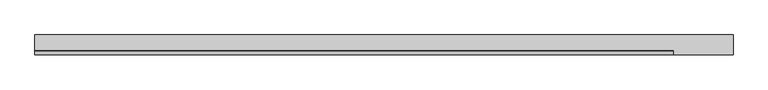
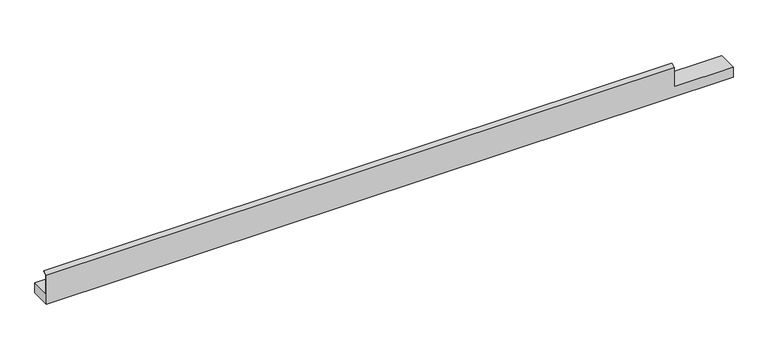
"""IFC4 building model written with IfcOpenShell, lengths in millimetres: proxy geometry, FOUNDATION^WORKSURFACES_OPEN OFFICE 2-70 RT."""

from ifc_helpers import new_model, si_unit, origin, place, context, project, spatial, faceted_brep, source, transform, mapped, element, save


def generic_models_dcc89742(model_context):
    return source(origin(), model_context, "Body", "Brep", [
        faceted_brep([(0.0, 0.0, -25.4), (1778.0, 0.0, -25.4), (1778.0, 0.0, 1.51892), (1625.6, 0.0, 1.51892), (1625.6, 0.0, 53.1958689), (0.0, 0.0, 53.1958689), (1778.0, 50.8, 1.51892), (1778.0, 50.8, -25.4), (0.0, 50.8, -25.4), (0.0, 50.8, 1.51892), (1625.6, 1.51892, 1.51892), (0.0, 1.51892, 1.51892), (0.0, 1.51892, 52.31892), (0.0, 11.04392, 57.8181813), (1625.6, 11.04392, 57.8181813), (1625.6, 1.51892, 52.31892), (0.0, 10.28446, 59.1336046), (1625.6, 10.28446, 59.1336046)], [[[0, 1, 2, 3, 4, 5]], [[6, 7, 8, 9]], [[1, 0, 8, 7]], [[10, 3, 2, 6, 9, 11]], [[12, 13, 14, 15]], [[13, 16, 17, 14]], [[16, 5, 4, 17]], [[10, 11, 12, 15]], [[3, 10, 15, 14, 17, 4]], [[0, 5, 16, 13, 12, 11, 9, 8]], [[1, 7, 6, 2]]]),
    ])


if __name__ == "__main__":
    model = new_model("IFC4")
    model_context = context("Model", 3, world=origin())
    ifc_project = project(units=[si_unit("LENGTHUNIT", "METRE", prefix="MILLI")], contexts=[model_context])
    site = spatial("IfcSite", under=ifc_project)
    building = spatial("IfcBuilding", under=site)
    placement = place(None, origin())
    generic_models_shape = generic_models_dcc89742(model_context)
    element("IfcBuildingElementProxy", 1, Name="FOUNDATION^WORKSURFACES_OPEN OFFICE 2-70 RT", ObjectType="FOUNDATION^WORKSURFACES_OPEN OFFICE 2-70 RT", at=placement, inside=building, context=model_context, shape_type="MappedRepresentation", body=[
        mapped(generic_models_shape, transform((0.0, 0.0, 0.0), x_axis=(1.0, 0.0, 0.0), y_axis=(0.0, 1.0, 0.0), z_axis=(0.0, 0.0, 1.0))),
    ])
    save(model, "model.ifc")
